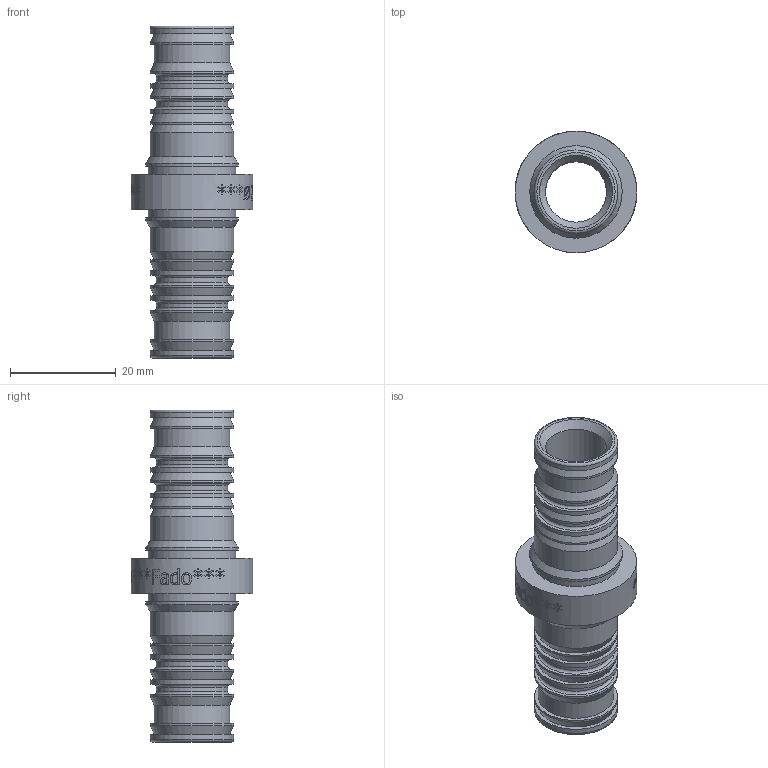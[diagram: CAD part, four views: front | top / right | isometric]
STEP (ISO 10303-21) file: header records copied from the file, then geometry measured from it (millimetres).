
FILE_DESCRIPTION(/* description */ (''),/* implementation_level */ '2;1');
FILE_NAME(/* name */ 'C:\Users\Doom\Desktop\Фадотех\Пресс\HDM03 Coupler 31.03.2020\HDM03-1_2D.stp',/* time_stamp */ '2022-08-11T15:27:14+03:00',/* author */ ('Doom'),/* organization */ (''),/* preprocessor_version */ 'ST-DEVELOPER v18',/* originating_system */ 'Autodesk Inventor 2020',/* authorisation */ '');
FILE_SCHEMA (('AUTOMOTIVE_DESIGN { 1 0 10303 214 3 1 1 }'));
Length unit declared in the file: millimetre
Products named in the file (1): 16 Model 18.12.2019
Bounding box: 23.02 x 23.01 x 62.8 mm (x, y, z)
Volume: 6452.7 mm3; surface area: 6806.5 mm2
Topology: 1 solids, 1 shells, 494 faces, 1372 edges, 934 vertices
Faces by surface type: bspline 308, plane 102, cylinder 60, cone 14, torus 10
Full cylindrical faces by diameter (mm): 11.5 x1, 13.5 x4, 14.3 x2, 15.8 x16, 16.6 x2, 17.5 x2, 23 x1
Entity records: 21408 total; most frequent: CARTESIAN_POINT 10481, ORIENTED_EDGE 2744, DIRECTION 1404, EDGE_CURVE 1372, VERTEX_POINT 934, B_SPLINE_CURVE_WITH_KNOTS 616, EDGE_LOOP 550, FACE_OUTER_BOUND 494
